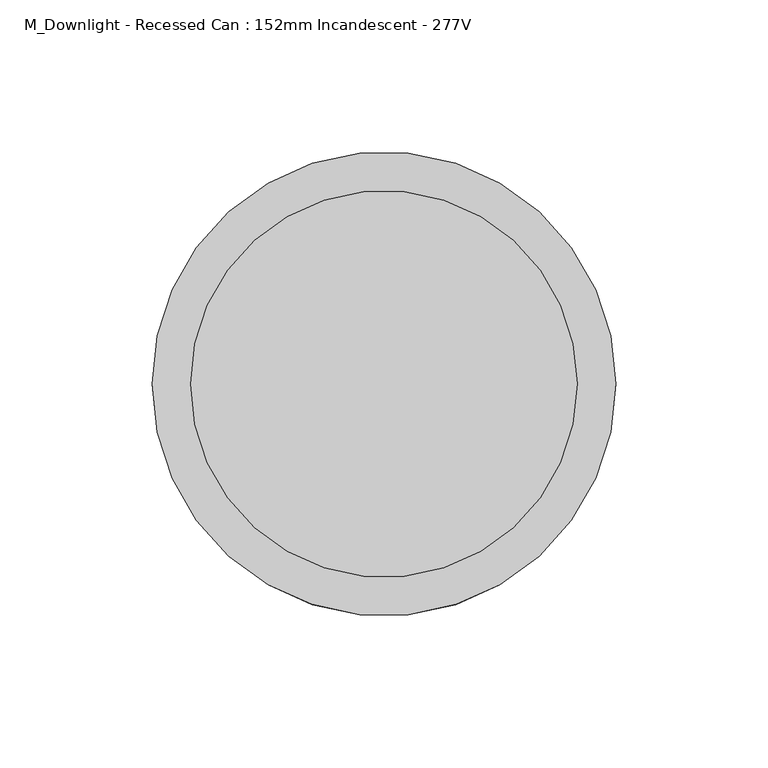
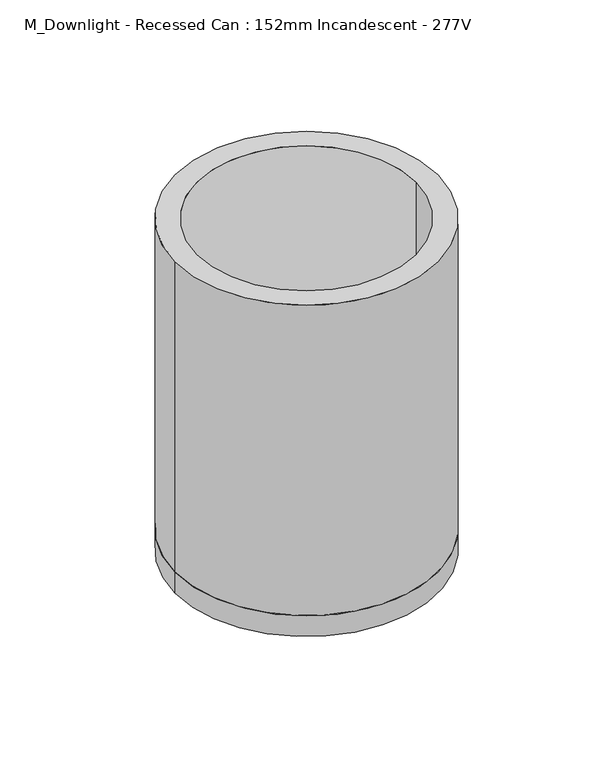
"""IFC4 building model written with IfcOpenShell, lengths in millimetres: light fixture geometry, M_Downlight - Recessed Can : 152mm Incandescent - 277V."""

from ifc_helpers import new_model, si_unit, point, frame, origin, origin_2d, place, context, project, spatial, circle_curve, trimmed, segment, composite_curve, outline, extrude, source, transform, mapped, element, save


def m_downlight_recessed_can_152mm_incandescent_277v_fb24c78e(model_context):
    return source(origin(), model_context, "Body", "SweptSolid", [
        extrude(outline(composite_curve([segment(trimmed(circle_curve(origin_2d(), 76.2), [point((-76.2, 0.0))], [point((76.2, 0.0))], False, "CARTESIAN"), True, "CONTINUOUS"), segment(trimmed(circle_curve(origin_2d(), 76.2), [point((76.2, 0.0))], [point((-76.2, 0.0))], False, "CARTESIAN"), True, "CONTINUOUS")], self_intersect=False)), frame((0.0, 0.0, -203.2), z_axis=(0.0, 0.0, 1.0), x_axis=(1.0, 0.0, 0.0)), (0.0, 0.0, 1.0), 12.7),
        extrude(outline(composite_curve([segment(trimmed(circle_curve(origin_2d(), 76.2), [point((-76.2, 0.0))], [point((76.2, 0.0))], False, "CARTESIAN"), True, "CONTINUOUS"), segment(trimmed(circle_curve(origin_2d(), 76.2), [point((76.2, 0.0))], [point((-76.2, 0.0))], False, "CARTESIAN"), True, "CONTINUOUS")], self_intersect=False), holes=[composite_curve([segment(trimmed(circle_curve(origin_2d(), 63.5), [point((-63.5, 0.0))], [point((63.5, 0.0))], True, "CARTESIAN"), True, "CONTINUOUS"), segment(trimmed(circle_curve(origin_2d(), 63.5), [point((63.5, 0.0))], [point((-63.5, 0.0))], True, "CARTESIAN"), True, "CONTINUOUS")], self_intersect=False)]), frame((0.0, 0.0, -190.5), z_axis=(0.0, 0.0, 1.0), x_axis=(1.0, 0.0, 0.0)), (0.0, 0.0, 1.0), 190.5),
    ])


if __name__ == "__main__":
    model = new_model("IFC4")
    model_context = context("Model", 3, world=origin())
    ifc_project = project(units=[si_unit("LENGTHUNIT", "METRE", prefix="MILLI")], contexts=[model_context])
    site = spatial("IfcSite", under=ifc_project)
    building = spatial("IfcBuilding", under=site)
    placement = place(None, origin())
    m_downlight_recessed_can_152mm_incandescent_277v_shape = m_downlight_recessed_can_152mm_incandescent_277v_fb24c78e(model_context)
    element("IfcLightFixture", 1, ObjectType="M_Downlight - Recessed Can : 152mm Incandescent - 277V", at=placement, inside=building, context=model_context, shape_type="MappedRepresentation", body=[
        mapped(m_downlight_recessed_can_152mm_incandescent_277v_shape, transform((0.0, 0.0, 0.0), x_axis=(1.0, 0.0, 0.0), y_axis=(0.0, 1.0, 0.0), z_axis=(0.0, 0.0, 1.0))),
    ])
    save(model, "model.ifc")
